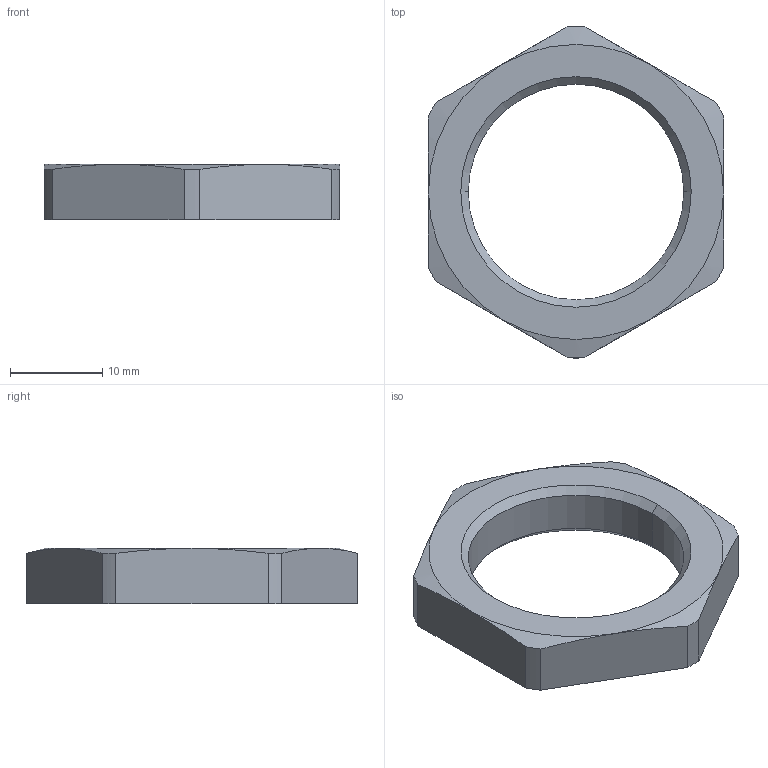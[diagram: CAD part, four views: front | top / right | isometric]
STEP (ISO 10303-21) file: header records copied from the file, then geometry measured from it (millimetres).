
FILE_DESCRIPTION (( 'STEP AP203' ), '1' );
FILE_NAME ('50.225 PA-FL.STEP', '2005-12-08T11:32:17', ( ' ' ), ( '' ), 'SwSTEP 2.0', 'SolidWorks 2005278', '' );
FILE_SCHEMA (( 'CONFIG_CONTROL_DESIGN' ));
Length unit declared in the file: millimetre
Products named in the file (1): 50.225 PA-FL
Bounding box: 32 x 36 x 6 mm (x, y, z)
Volume: 2666.2 mm3; surface area: 1921.2 mm2
Topology: 1 solids, 1 shells, 63 faces, 164 edges, 106 vertices
Faces by surface type: plane 45, cone 10, cylinder 8
Entity records: 2021 total; most frequent: CARTESIAN_POINT 394, ORIENTED_EDGE 328, DIRECTION 306, EDGE_CURVE 164, VECTOR 126, LINE 126, VERTEX_POINT 106, AXIS2_PLACEMENT_3D 90
